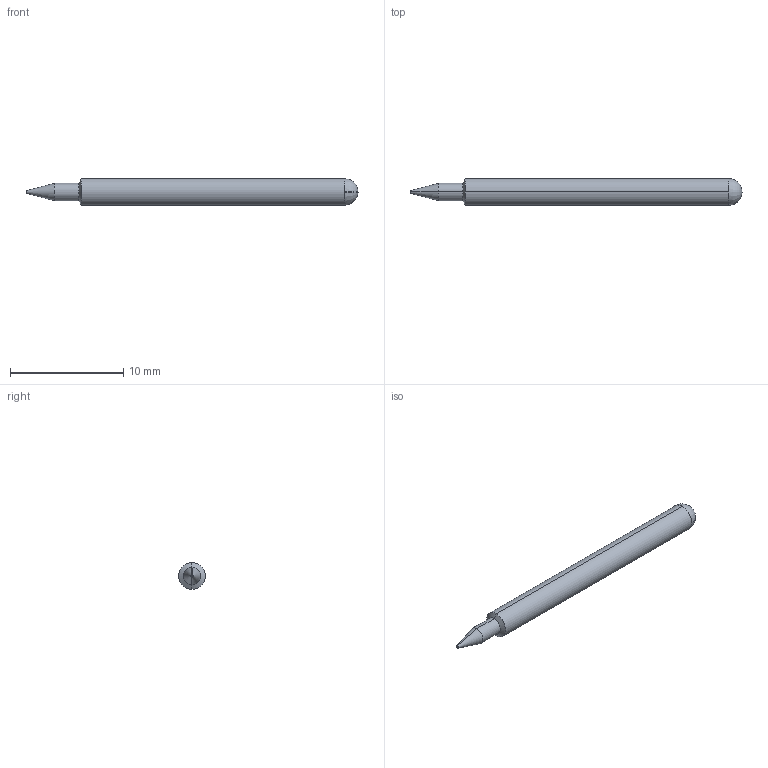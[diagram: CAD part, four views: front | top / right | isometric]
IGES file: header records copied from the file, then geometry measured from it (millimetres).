
Start section: SolidWorks IGES file using analytic representation for surfaces
Global section: file name: Z:\probe solid model mockups\Solidworks models\IGES Files\HCP-14 IGES files\HCP-14B RECD.IGS; native system: SolidWorks 2006 by SolidWorks Corporation; preprocessor: SolidWorks 2006 by SolidWorks Corporation; author: tsakatani; date: 071202.143543; units: inch
Bounding box: 29.29 x 2.36 x 2.36 mm (x, y, z)
Surface area: 201.3 mm2 (no closed solid volume)
Topology: 0 solids, 0 shells, 12 faces, 56 edges, 52 vertices
Faces by surface type: revolution 12
